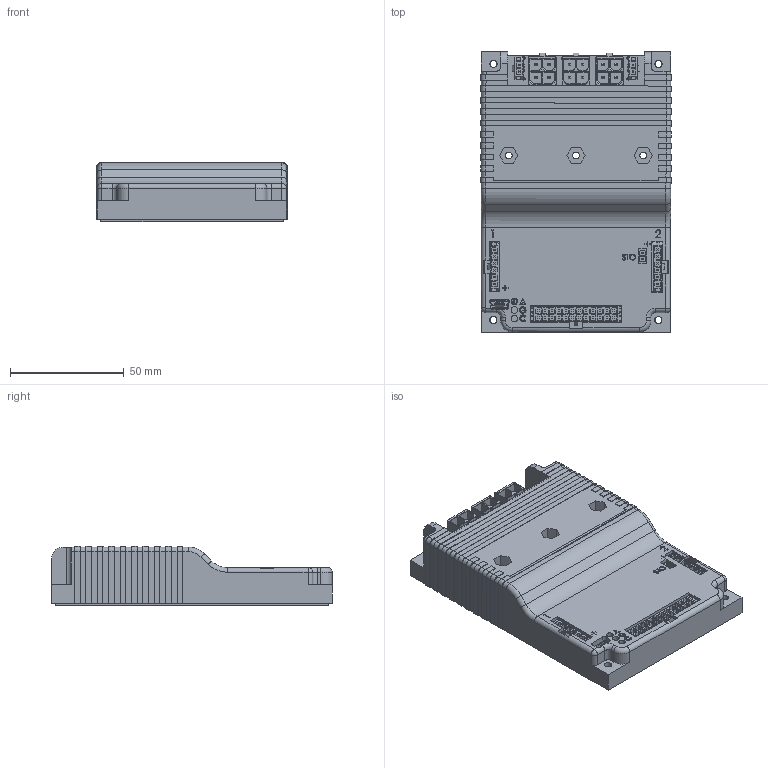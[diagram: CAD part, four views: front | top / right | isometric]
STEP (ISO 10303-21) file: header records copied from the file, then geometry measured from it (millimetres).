
FILE_DESCRIPTION (( 'STEP AP214' ), '1' );
FILE_NAME ('SBLM23xx_assembly_CAD.STEP', '2019-08-05T15:19:36', ( '' ), ( '' ), 'SwSTEP 2.0', 'SolidWorks 2018', '' );
FILE_SCHEMA (( 'AUTOMOTIVE_DESIGN' ));
Length unit declared in the file: millimetre
Products named in the file (4): SBLM2xx_Case_v1; SBLM23xx_assembly_CAD; PCB_SBLM23xx_v11a_blank; SBLM Bottom_Plate
Assembly tree (3 placements, depth 2):
  SBLM23xx_assembly_CAD
    SBLM Bottom_Plate
    SBLM2xx_Case_v1
    PCB_SBLM23xx_v11a_blank
Bounding box: 83.65 x 123.09 x 25.9 mm (x, y, z)
Volume: 58741.3 mm3; surface area: 97433.4 mm2
Topology: 2 solids, 31 shells, 4211 faces, 11335 edges, 7349 vertices
Faces by surface type: plane 3214, cylinder 785, torus 135, bspline 37, cone 21, sphere 19
Entity records: 173081 total; most frequent: CARTESIAN_POINT 29129, ORIENTED_EDGE 22579, DIRECTION 20173, EDGE_CURVE 11310, VECTOR 8567, LINE 8567, VERTEX_POINT 7343, AXIS2_PLACEMENT_3D 5803
